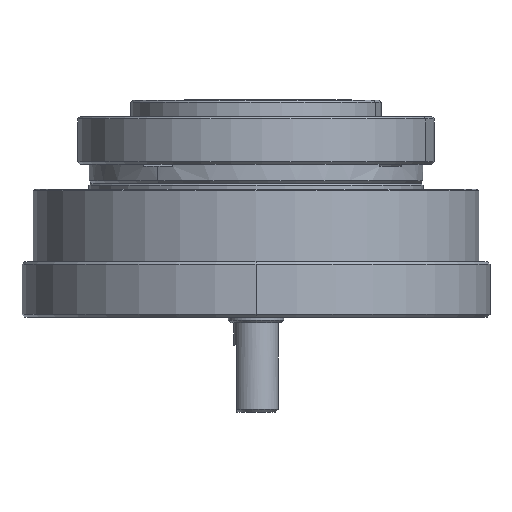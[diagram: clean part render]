
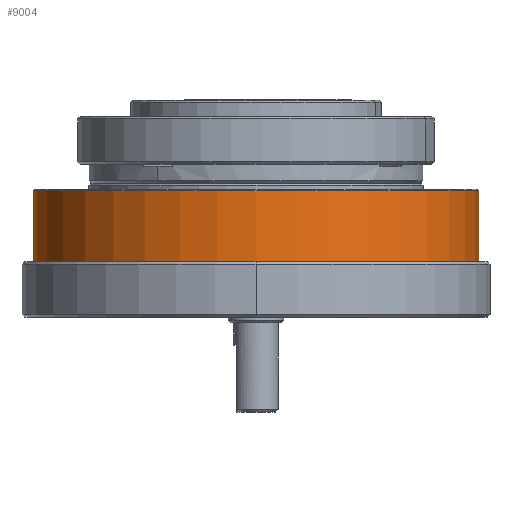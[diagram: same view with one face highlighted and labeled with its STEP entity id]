
A CAD part, front view. The second image highlights one B-rep face of the part: STEP entity #9004.
In plain terms, the highlighted cylindrical face has radius 40 mm (diameter 80 mm), a partial arc.
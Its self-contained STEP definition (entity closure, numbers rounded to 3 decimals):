
#62 = EDGE_CURVE ( 'NONE', #7470, #2685, #3472, .T. ) ;
#280 = VERTEX_POINT ( 'NONE', #5072 ) ;
#584 = DIRECTION ( 'NONE',  ( 1., 0., 0. ) ) ;
#768 = CARTESIAN_POINT ( 'NONE',  ( -5.943, -3.772, 87.2 ) ) ;
#921 = CARTESIAN_POINT ( 'NONE',  ( -45.943, -3.772, 88.5 ) ) ;
#958 = DIRECTION ( 'NONE',  ( 0., 0., -1. ) ) ;
#1003 = CYLINDRICAL_SURFACE ( 'NONE', #5519, 40. ) ;
#1108 = FACE_OUTER_BOUND ( 'NONE', #3412, .T. ) ;
#1386 = DIRECTION ( 'NONE',  ( -1., 0., 0. ) ) ;
#1685 = EDGE_CURVE ( 'NONE', #4490, #280, #8943, .T. ) ;
#1747 = CARTESIAN_POINT ( 'NONE',  ( -5.943, -3.772, 88.5 ) ) ;
#1779 = DIRECTION ( 'NONE',  ( 0., 0., -1. ) ) ;
#1811 = CARTESIAN_POINT ( 'NONE',  ( -45.943, -3.772, 87.2 ) ) ;
#2094 = AXIS2_PLACEMENT_3D ( 'NONE', #768, #9574, #584 ) ;
#2685 = VERTEX_POINT ( 'NONE', #7459 ) ;
#3044 = ORIENTED_EDGE ( 'NONE', *, *, #62, .T. ) ;
#3412 = EDGE_LOOP ( 'NONE', ( #6345, #4466, #3044, #4876 ) ) ;
#3472 = LINE ( 'NONE', #921, #4126 ) ;
#3738 = CIRCLE ( 'NONE', #6667, 40. ) ;
#4126 = VECTOR ( 'NONE', #958, 1000. ) ;
#4466 = ORIENTED_EDGE ( 'NONE', *, *, #6584, .T. ) ;
#4490 = VERTEX_POINT ( 'NONE', #7925 ) ;
#4876 = ORIENTED_EDGE ( 'NONE', *, *, #8799, .T. ) ;
#5072 = CARTESIAN_POINT ( 'NONE',  ( 34.057, -3.772, 71.8 ) ) ;
#5519 = AXIS2_PLACEMENT_3D ( 'NONE', #1747, #1779, #1386 ) ;
#5641 = CIRCLE ( 'NONE', #2094, 40. ) ;
#6345 = ORIENTED_EDGE ( 'NONE', *, *, #1685, .F. ) ;
#6584 = EDGE_CURVE ( 'NONE', #4490, #7470, #5641, .T. ) ;
#6667 = AXIS2_PLACEMENT_3D ( 'NONE', #6799, #6872, #6940 ) ;
#6799 = CARTESIAN_POINT ( 'NONE',  ( -5.943, -3.772, 71.8 ) ) ;
#6872 = DIRECTION ( 'NONE',  ( 0., 0., 1. ) ) ;
#6940 = DIRECTION ( 'NONE',  ( 1., 0., 0. ) ) ;
#7459 = CARTESIAN_POINT ( 'NONE',  ( -45.943, -3.772, 71.8 ) ) ;
#7470 = VERTEX_POINT ( 'NONE', #1811 ) ;
#7925 = CARTESIAN_POINT ( 'NONE',  ( 34.057, -3.772, 87.2 ) ) ;
#8710 = VECTOR ( 'NONE', #8949, 1000. ) ;
#8799 = EDGE_CURVE ( 'NONE', #2685, #280, #3738, .T. ) ;
#8943 = LINE ( 'NONE', #8964, #8710 ) ;
#8949 = DIRECTION ( 'NONE',  ( 0., 0., -1. ) ) ;
#8964 = CARTESIAN_POINT ( 'NONE',  ( 34.057, -3.772, 88.5 ) ) ;
#9004 = ADVANCED_FACE ( 'NONE', ( #1108 ), #1003, .T. ) ;
#9574 = DIRECTION ( 'NONE',  ( 0., 0., -1. ) ) ;
